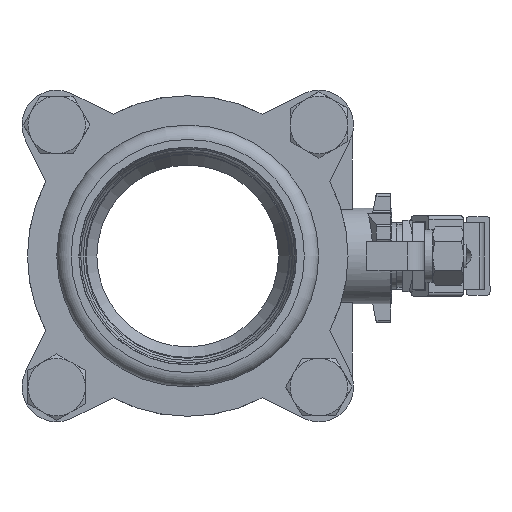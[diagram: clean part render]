
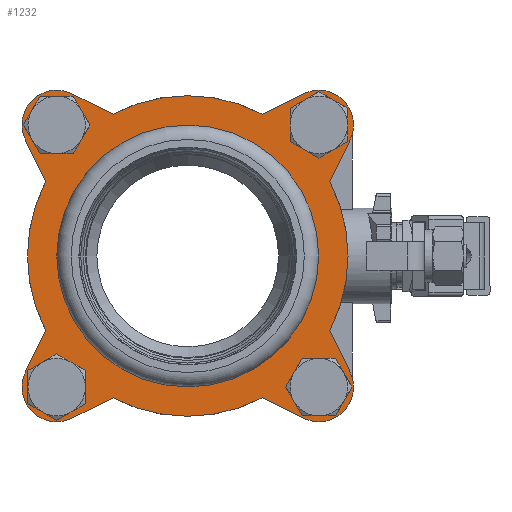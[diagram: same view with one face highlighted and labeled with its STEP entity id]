
A CAD part, front view. The second image highlights one B-rep face of the part: STEP entity #1232.
In plain terms, the highlighted planar face has unit normal (0, -1, 0).
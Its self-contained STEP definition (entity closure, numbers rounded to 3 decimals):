
#1232=ADVANCED_FACE('',(#2411,#2412,#2413,#2414,#2415,#2416),#2417,.T.);
#2411=FACE_BOUND('',#3810,.T.);
#2412=FACE_BOUND('',#3811,.T.);
#2413=FACE_BOUND('',#3812,.T.);
#2414=FACE_BOUND('',#3813,.T.);
#2415=FACE_BOUND('',#3814,.T.);
#2416=FACE_OUTER_BOUND('',#3815,.T.);
#2417=PLANE('',#3816);
#3810=EDGE_LOOP('',(#5909));
#3811=EDGE_LOOP('',(#5910));
#3812=EDGE_LOOP('',(#5911));
#3813=EDGE_LOOP('',(#5912));
#3814=EDGE_LOOP('',(#5913));
#3815=EDGE_LOOP('',(#5914,#5915,#5916,#5917,#5918,#5919,#5920,#5921,#5922,#5923,#5924,#5925,#5926,#5927,#5928,#5929));
#3816=AXIS2_PLACEMENT_3D('',#5930,#5931,#5932);
#5909=ORIENTED_EDGE('',*,*,#8464,.F.);
#5910=ORIENTED_EDGE('',*,*,#8465,.F.);
#5911=ORIENTED_EDGE('',*,*,#8466,.F.);
#5912=ORIENTED_EDGE('',*,*,#8467,.F.);
#5913=ORIENTED_EDGE('',*,*,#8468,.F.);
#5914=ORIENTED_EDGE('',*,*,#8469,.F.);
#5915=ORIENTED_EDGE('',*,*,#8470,.F.);
#5916=ORIENTED_EDGE('',*,*,#8471,.F.);
#5917=ORIENTED_EDGE('',*,*,#8460,.F.);
#5918=ORIENTED_EDGE('',*,*,#8472,.F.);
#5919=ORIENTED_EDGE('',*,*,#8473,.F.);
#5920=ORIENTED_EDGE('',*,*,#8474,.F.);
#5921=ORIENTED_EDGE('',*,*,#8475,.F.);
#5922=ORIENTED_EDGE('',*,*,#8476,.F.);
#5923=ORIENTED_EDGE('',*,*,#8477,.F.);
#5924=ORIENTED_EDGE('',*,*,#8478,.F.);
#5925=ORIENTED_EDGE('',*,*,#8479,.F.);
#5926=ORIENTED_EDGE('',*,*,#8454,.F.);
#5927=ORIENTED_EDGE('',*,*,#8480,.F.);
#5928=ORIENTED_EDGE('',*,*,#8449,.F.);
#5929=ORIENTED_EDGE('',*,*,#8481,.F.);
#5930=CARTESIAN_POINT('',(92.0,-65.8,0.));
#5931=DIRECTION('',(0.,-1.0,0.0));
#5932=DIRECTION('',(0.0,0.0,1.0));
#8449=EDGE_CURVE('',#9821,#9822,#9823,.T.);
#8454=EDGE_CURVE('',#9830,#9831,#9832,.T.);
#8460=EDGE_CURVE('',#9840,#9842,#9843,.T.);
#8464=EDGE_CURVE('',#9848,#9848,#9849,.T.);
#8465=EDGE_CURVE('',#9850,#9850,#9851,.T.);
#8466=EDGE_CURVE('',#9852,#9852,#9853,.T.);
#8467=EDGE_CURVE('',#9854,#9854,#9855,.T.);
#8468=EDGE_CURVE('',#9856,#9856,#9857,.T.);
#8469=EDGE_CURVE('',#9858,#9859,#9860,.T.);
#8470=EDGE_CURVE('',#9861,#9858,#9862,.T.);
#8471=EDGE_CURVE('',#9842,#9861,#9863,.T.);
#8472=EDGE_CURVE('',#9864,#9840,#9865,.T.);
#8473=EDGE_CURVE('',#9866,#9864,#9867,.T.);
#8474=EDGE_CURVE('',#9868,#9866,#9869,.T.);
#8475=EDGE_CURVE('',#9870,#9868,#9871,.T.);
#8476=EDGE_CURVE('',#9872,#9870,#9873,.T.);
#8477=EDGE_CURVE('',#9874,#9872,#9875,.T.);
#8478=EDGE_CURVE('',#9876,#9874,#9877,.T.);
#8479=EDGE_CURVE('',#9831,#9876,#9878,.T.);
#8480=EDGE_CURVE('',#9822,#9830,#9879,.T.);
#8481=EDGE_CURVE('',#9859,#9821,#9880,.T.);
#9821=VERTEX_POINT('',#11914);
#9822=VERTEX_POINT('',#11915);
#9823=LINE('',#11916,#11917);
#9830=VERTEX_POINT('',#11927);
#9831=VERTEX_POINT('',#11928);
#9832=LINE('',#11929,#11930);
#9840=VERTEX_POINT('',#11941);
#9842=VERTEX_POINT('',#11944);
#9843=CIRCLE('',#11945,14.5);
#9848=VERTEX_POINT('',#11951);
#9849=CIRCLE('',#11952,8.25);
#9850=VERTEX_POINT('',#11953);
#9851=CIRCLE('',#11954,8.25);
#9852=VERTEX_POINT('',#11955);
#9853=CIRCLE('',#11956,8.25);
#9854=VERTEX_POINT('',#11957);
#9855=CIRCLE('',#11958,8.25);
#9856=VERTEX_POINT('',#11959);
#9857=CIRCLE('',#11960,45.5);
#9858=VERTEX_POINT('',#11961);
#9859=VERTEX_POINT('',#11962);
#9860=LINE('',#11963,#11964);
#9861=VERTEX_POINT('',#11965);
#9862=CIRCLE('',#11966,67.);
#9863=LINE('',#11967,#11968);
#9864=VERTEX_POINT('',#11969);
#9865=LINE('',#11970,#11971);
#9866=VERTEX_POINT('',#11972);
#9867=CIRCLE('',#11973,67.);
#9868=VERTEX_POINT('',#11974);
#9869=LINE('',#11975,#11976);
#9870=VERTEX_POINT('',#11977);
#9871=CIRCLE('',#11978,14.5);
#9872=VERTEX_POINT('',#11979);
#9873=LINE('',#11980,#11981);
#9874=VERTEX_POINT('',#11982);
#9875=CIRCLE('',#11983,67.);
#9876=VERTEX_POINT('',#11984);
#9877=LINE('',#11985,#11986);
#9878=CIRCLE('',#11987,14.5);
#9879=CIRCLE('',#11988,67.0);
#9880=CIRCLE('',#11989,14.5);
#11914=CARTESIAN_POINT('',(-48.443,-65.8,67.832));
#11915=CARTESIAN_POINT('',(-31.074,-65.8,59.358));
#11916=CARTESIAN_POINT('',(-48.443,-65.8,67.832));
#11917=VECTOR('',#14558,1.0);
#11927=CARTESIAN_POINT('',(31.074,-65.8,59.358));
#11928=CARTESIAN_POINT('',(48.443,-65.8,67.832));
#11929=CARTESIAN_POINT('',(31.074,-65.8,59.358));
#11930=VECTOR('',#14562,1.0);
#11941=CARTESIAN_POINT('',(-48.443,-65.8,-67.832));
#11944=CARTESIAN_POINT('',(-67.832,-65.8,-48.443));
#11945=AXIS2_PLACEMENT_3D('',#14567,#14568,#14569);
#11951=CARTESIAN_POINT('',(54.801,-65.8,46.551));
#11952=AXIS2_PLACEMENT_3D('',#14574,#14575,#14576);
#11953=CARTESIAN_POINT('',(-54.801,-65.8,46.551));
#11954=AXIS2_PLACEMENT_3D('',#14577,#14578,#14579);
#11955=CARTESIAN_POINT('',(-54.801,-65.8,-63.051));
#11956=AXIS2_PLACEMENT_3D('',#14580,#14581,#14582);
#11957=CARTESIAN_POINT('',(54.801,-65.8,-63.051));
#11958=AXIS2_PLACEMENT_3D('',#14583,#14584,#14585);
#11959=CARTESIAN_POINT('',(0.,-65.8,-45.5));
#11960=AXIS2_PLACEMENT_3D('',#14586,#14587,#14588);
#11961=CARTESIAN_POINT('',(-59.358,-65.8,31.074));
#11962=CARTESIAN_POINT('',(-67.832,-65.8,48.443));
#11963=CARTESIAN_POINT('',(-59.358,-65.8,31.074));
#11964=VECTOR('',#14589,1.0);
#11965=CARTESIAN_POINT('',(-59.358,-65.8,-31.074));
#11966=AXIS2_PLACEMENT_3D('',#14590,#14591,#14592);
#11967=CARTESIAN_POINT('',(-67.832,-65.8,-48.443));
#11968=VECTOR('',#14593,1.0);
#11969=CARTESIAN_POINT('',(-31.074,-65.8,-59.358));
#11970=CARTESIAN_POINT('',(-31.074,-65.8,-59.358));
#11971=VECTOR('',#14594,1.0);
#11972=CARTESIAN_POINT('',(31.074,-65.8,-59.358));
#11973=AXIS2_PLACEMENT_3D('',#14595,#14596,#14597);
#11974=CARTESIAN_POINT('',(48.443,-65.8,-67.832));
#11975=CARTESIAN_POINT('',(48.443,-65.8,-67.832));
#11976=VECTOR('',#14598,1.0);
#11977=CARTESIAN_POINT('',(67.832,-65.8,-48.443));
#11978=AXIS2_PLACEMENT_3D('',#14599,#14600,#14601);
#11979=CARTESIAN_POINT('',(59.358,-65.8,-31.074));
#11980=CARTESIAN_POINT('',(59.358,-65.8,-31.074));
#11981=VECTOR('',#14602,1.0);
#11982=CARTESIAN_POINT('',(59.358,-65.8,31.074));
#11983=AXIS2_PLACEMENT_3D('',#14603,#14604,#14605);
#11984=CARTESIAN_POINT('',(67.832,-65.8,48.443));
#11985=CARTESIAN_POINT('',(67.832,-65.8,48.443));
#11986=VECTOR('',#14606,1.0);
#11987=AXIS2_PLACEMENT_3D('',#14607,#14608,#14609);
#11988=AXIS2_PLACEMENT_3D('',#14610,#14611,#14612);
#11989=AXIS2_PLACEMENT_3D('',#14613,#14614,#14615);
#14558=DIRECTION('',(0.899,0.,-0.438));
#14562=DIRECTION('',(0.899,0.,0.438));
#14567=CARTESIAN_POINT('',(-54.801,-65.8,-54.801));
#14568=DIRECTION('',(0.,1.0,0.));
#14569=DIRECTION('',(0.,0.,1.0));
#14574=CARTESIAN_POINT('',(54.801,-65.8,54.801));
#14575=DIRECTION('',(0.,-1.0,0.));
#14576=DIRECTION('',(0.,0.,-1.0));
#14577=CARTESIAN_POINT('',(-54.801,-65.8,54.801));
#14578=DIRECTION('',(0.,-1.0,0.));
#14579=DIRECTION('',(0.,0.,-1.0));
#14580=CARTESIAN_POINT('',(-54.801,-65.8,-54.801));
#14581=DIRECTION('',(0.,-1.0,0.));
#14582=DIRECTION('',(0.,0.,-1.0));
#14583=CARTESIAN_POINT('',(54.801,-65.8,-54.801));
#14584=DIRECTION('',(0.,-1.0,0.));
#14585=DIRECTION('',(0.,0.,-1.0));
#14586=CARTESIAN_POINT('',(0.,-65.8,0.));
#14587=DIRECTION('',(0.,-1.0,-0.0));
#14588=DIRECTION('',(0.0,0.0,-1.0));
#14589=DIRECTION('',(-0.438,0.,0.899));
#14590=CARTESIAN_POINT('',(0.,-65.8,0.));
#14591=DIRECTION('',(0.,1.0,0.));
#14592=DIRECTION('',(0.,0.,1.0));
#14593=DIRECTION('',(0.438,0.,0.899));
#14594=DIRECTION('',(-0.899,0.,-0.438));
#14595=CARTESIAN_POINT('',(0.,-65.8,0.));
#14596=DIRECTION('',(0.,1.0,0.));
#14597=DIRECTION('',(0.,0.,1.0));
#14598=DIRECTION('',(-0.899,0.,0.438));
#14599=CARTESIAN_POINT('',(54.801,-65.8,-54.801));
#14600=DIRECTION('',(0.,1.0,0.));
#14601=DIRECTION('',(0.,0.,1.0));
#14602=DIRECTION('',(0.438,0.,-0.899));
#14603=CARTESIAN_POINT('',(0.,-65.8,0.));
#14604=DIRECTION('',(0.,1.0,0.));
#14605=DIRECTION('',(0.,0.,1.0));
#14606=DIRECTION('',(-0.438,0.,-0.899));
#14607=CARTESIAN_POINT('',(54.801,-65.8,54.801));
#14608=DIRECTION('',(0.,1.0,0.));
#14609=DIRECTION('',(0.,0.,1.0));
#14610=CARTESIAN_POINT('',(0.,-65.8,0.));
#14611=DIRECTION('',(0.,1.0,0.));
#14612=DIRECTION('',(0.,0.,1.0));
#14613=CARTESIAN_POINT('',(-54.801,-65.8,54.801));
#14614=DIRECTION('',(0.,1.0,0.));
#14615=DIRECTION('',(0.,0.,1.0));
